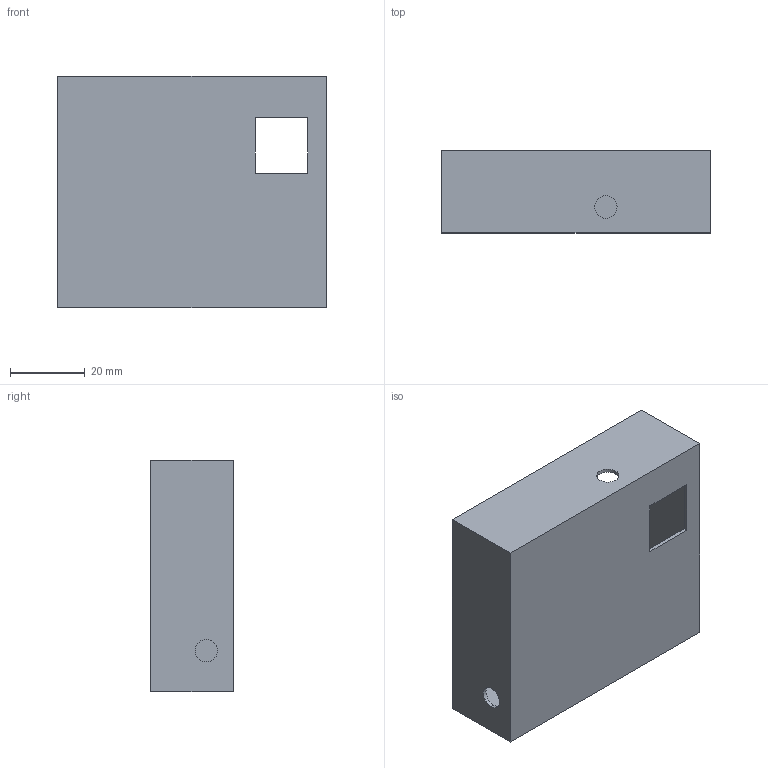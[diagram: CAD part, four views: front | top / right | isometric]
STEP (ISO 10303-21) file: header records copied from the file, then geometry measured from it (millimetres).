
FILE_DESCRIPTION (( 'STEP AP214' ), '1' );
FILE_NAME ('Tele_project_Part3.STEP', '2026-05-08T12:06:53', ( '' ), ( '' ), 'SwSTEP 2.0', 'SolidWorks 2022', '' );
FILE_SCHEMA (( 'AUTOMOTIVE_DESIGN' ));
Length unit declared in the file: centimetre
Products named in the file (1): Tele_project_Part3
Bounding box: 72 x 22 x 62 mm (x, y, z)
Volume: 9741.5 mm3; surface area: 19846.6 mm2
Topology: 1 solids, 1 shells, 19 faces, 48 edges, 32 vertices
Faces by surface type: plane 15, cylinder 4
Entity records: 616 total; most frequent: CARTESIAN_POINT 100, DIRECTION 96, ORIENTED_EDGE 96, EDGE_CURVE 48, VECTOR 40, LINE 40, VERTEX_POINT 32, AXIS2_PLACEMENT_3D 28
